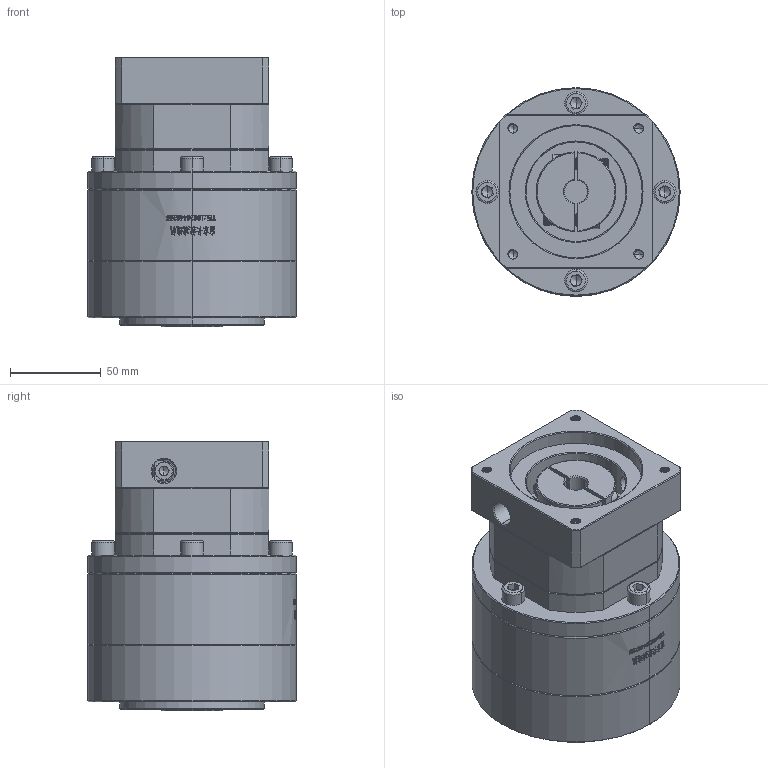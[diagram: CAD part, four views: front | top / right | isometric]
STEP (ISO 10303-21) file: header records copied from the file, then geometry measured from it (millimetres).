
FILE_DESCRIPTION (( 'STEP AP214' ), '1' );
FILE_NAME ('ZE120A-K25-L2-12.7-73-69.5X69.5-M6.step', '2023-03-13T06:52:40', ( '' ), ( '' ), 'SwSTEP 2.0', 'SolidWorks 2016', '' );
FILE_SCHEMA (( 'AUTOMOTIVE_DESIGN' ));
Length unit declared in the file: millimetre
Products named in the file (1): ZE120A-K25-L2-12.7-73-69.5X69.5-M6
Bounding box: 115 x 115 x 149 mm (x, y, z)
Volume: 1173055.4 mm3; surface area: 120058.7 mm2
Topology: 5 solids, 6 shells, 1963 faces, 5179 edges, 3307 vertices
Faces by surface type: plane 855, cylinder 467, bspline 324, cone 302, torus 15
Entity records: 111061 total; most frequent: CARTESIAN_POINT 45307, ORIENTED_EDGE 10286, DIRECTION 7729, EDGE_CURVE 5143, VERTEX_POINT 3307, VECTOR 2751, LINE 2751, AXIS2_PLACEMENT_3D 2489
